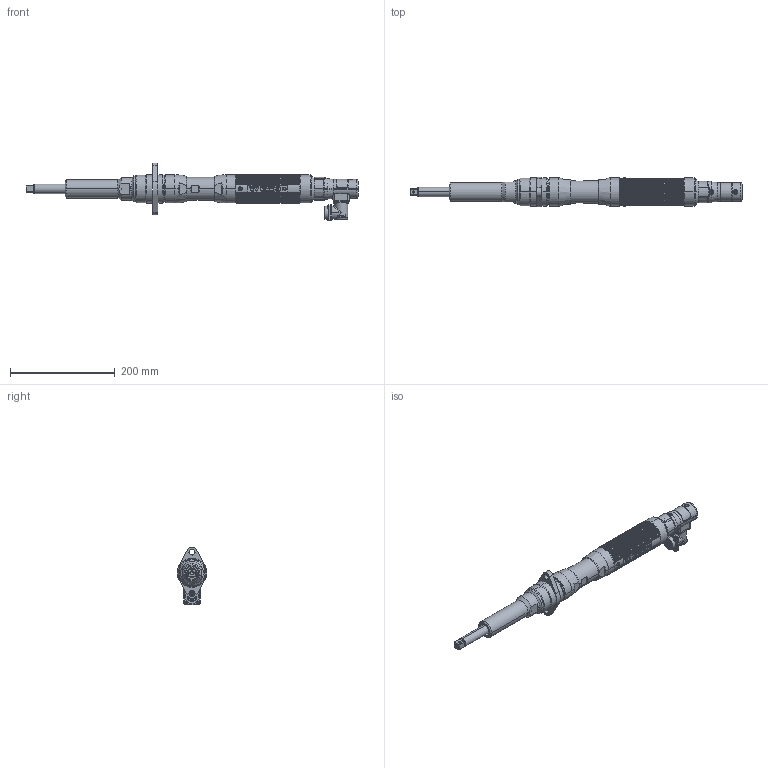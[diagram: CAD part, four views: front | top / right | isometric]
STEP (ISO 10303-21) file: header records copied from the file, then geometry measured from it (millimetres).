
FILE_DESCRIPTION((''),'2;1');
FILE_NAME('EB44MB1F2-120','2017-04-21T',('DMG0713'),(''),'PRO/ENGINEER BY PARAMETRIC TECHNOLOGY CORPORATION, 2010430','PRO/ENGINEER BY PARAMETRIC TECHNOLOGY CORPORATION, 2010430','');
FILE_SCHEMA(('CONFIG_CONTROL_DESIGN'));
Length unit declared in the file: inch
Products named in the file (1): EB44MB1F2-120
Bounding box: 632.9 x 56.39 x 110.39 mm (x, y, z)
Surface area: 132909.7 mm2 (no closed solid volume)
Topology: 0 solids, 103 shells, 565 faces, 3050 edges, 2473 vertices
Faces by surface type: cylinder 256, plane 152, cone 60, bspline 50, torus 45, extrusion 2
Entity records: 37235 total; most frequent: CARTESIAN_POINT 14748, DIRECTION 4419, ORIENTED_EDGE 3987, EDGE_CURVE 3048, VERTEX_POINT 2473, VECTOR 1533, LINE 1531, AXIS2_PLACEMENT_3D 1443
